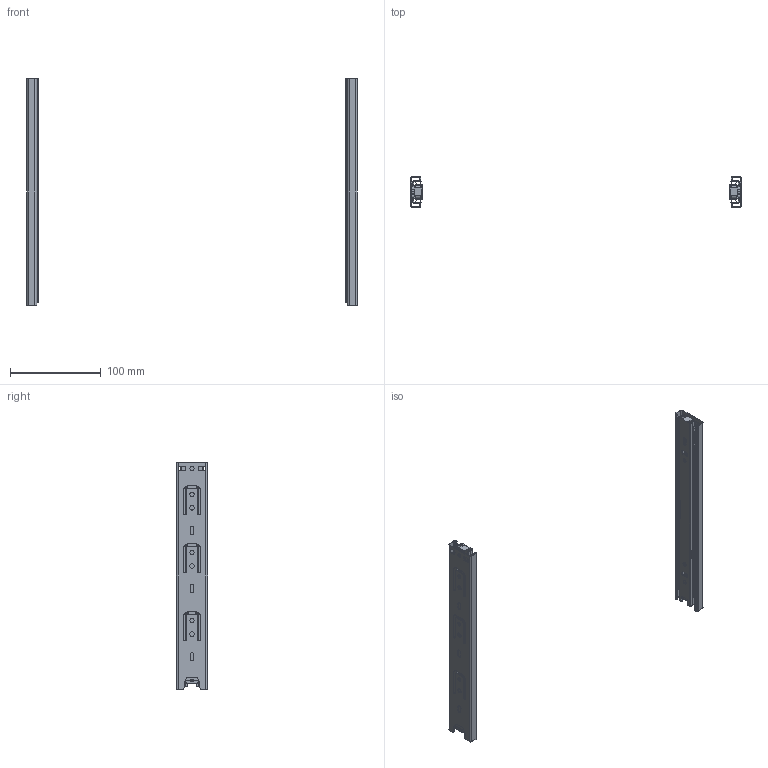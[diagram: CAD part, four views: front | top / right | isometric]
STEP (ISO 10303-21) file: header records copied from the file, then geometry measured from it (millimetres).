
FILE_DESCRIPTION(/* description */ (''),/* implementation_level */ '2;1');
FILE_NAME(/* name */ 'D:\$Workingspace\Designs\Katalog\Cadsoft\GTV Prowadnice\Prowadnice GTV_bryły 3D\PK-0H35-2500.stp',/* time_stamp */ '2016-11-22T11:16:20+01:00',/* author */ ('tomaszw'),/* organization */ (''),/* preprocessor_version */ 'ST-DEVELOPER v16.1',/* originating_system */ 'Autodesk Inventor 2016',/* authorisation */ '');
FILE_SCHEMA (('AUTOMOTIVE_DESIGN { 1 0 10303 214 3 1 1 }'));
Length unit declared in the file: millimetre
Products named in the file (5): PK-0H35_1-250; PK-0H35_2-250; PK-0H35_3-250; Blokada_3; PK-0H35
Assembly tree (8 placements, depth 2):
  PK-0H35
    PK-0H35_1-250  x2
    PK-0H35_2-250  x2
    PK-0H35_3-250  x2
    Blokada_3  x2
Bounding box: 364 x 34.8 x 250 mm (x, y, z)
Volume: 51504.3 mm3; surface area: 124169.5 mm2
Topology: 8 solids, 8 shells, 432 faces, 1248 edges, 832 vertices
Faces by surface type: plane 220, cylinder 212
Full cylindrical faces by diameter (mm): 4.5 x12, 5 x8
Entity records: 7570 total; most frequent: CARTESIAN_POINT 1277, DIRECTION 1276, ORIENTED_EDGE 1228, EDGE_CURVE 614, AXIS2_PLACEMENT_3D 437, VERTEX_POINT 416, LINE 402, VECTOR 402
